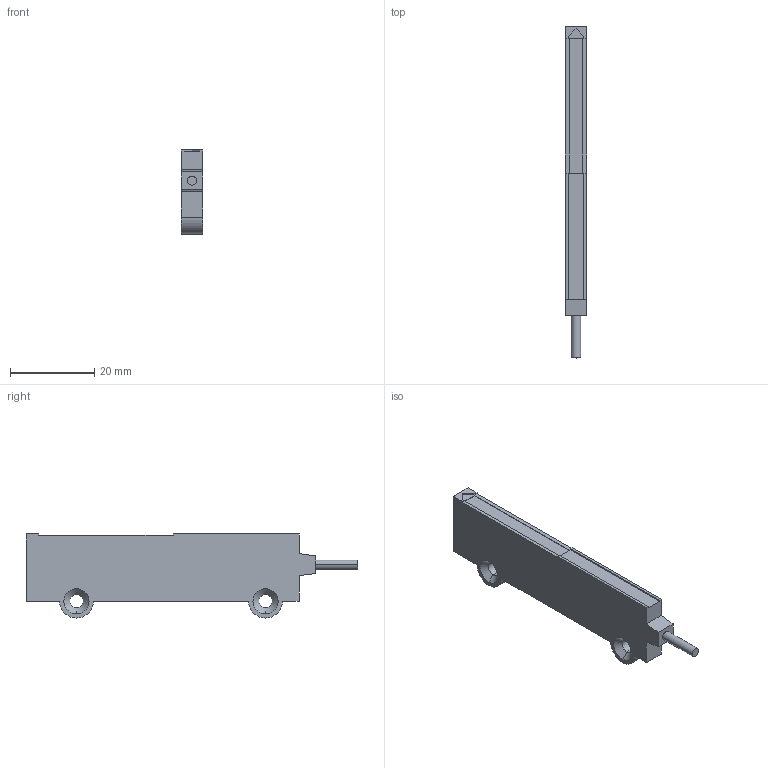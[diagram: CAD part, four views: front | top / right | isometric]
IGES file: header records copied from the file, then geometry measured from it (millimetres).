
Start section: SolidWorks IGES file using analytic representation for surfaces
Global section: file name: C:\Documents and Settings\MF1158\デスクトップ\a30\FT-A30.IGS; native system: SolidWorks 2005 by SolidWorks Corporation; preprocessor: SolidWorks 2005 by SolidWorks Corporation; author: MF1158; date: 060130.091845; units: millimetre
Bounding box: 5 x 79 x 20 mm (x, y, z)
Volume: 5357.9 mm3; surface area: 3231.1 mm2
Topology: 1 solids, 1 shells, 49 faces, 127 edges, 82 vertices
Faces by surface type: plane 31, revolution 18
